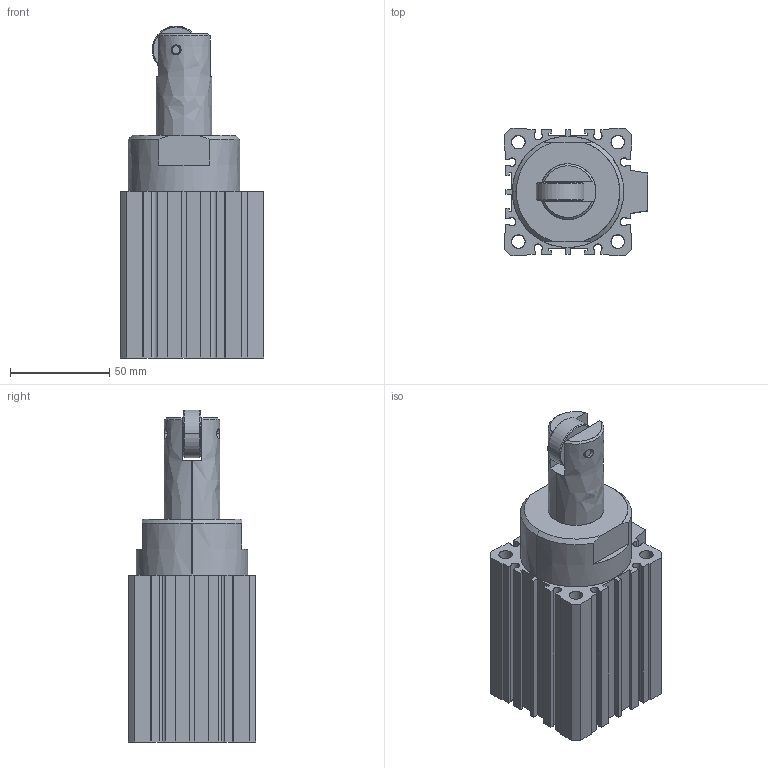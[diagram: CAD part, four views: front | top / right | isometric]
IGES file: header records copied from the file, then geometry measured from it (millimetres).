
Start section: SolidWorks IGES file using analytic representation for surfaces
Global section: file name: C:\Documents and Settings\admin\Bureau\stage de yaya\Plan Philippe Pince\PINCE\VUSB\pièces en 3D\VUSB STEP\ELOC-3DWG\ELOC-50-30-TIGE SORTIE.IGS; native system: SolidWorks 2007; preprocessor: SolidWorks 2007; author: admin; date: 080331.093021; units: millimetre
Bounding box: 72 x 64 x 167 mm (x, y, z)
Surface area: 74649.3 mm2 (no closed solid volume)
Topology: 0 solids, 0 shells, 878 faces, 10808 edges, 10848 vertices
Faces by surface type: bspline 805, revolution 73
